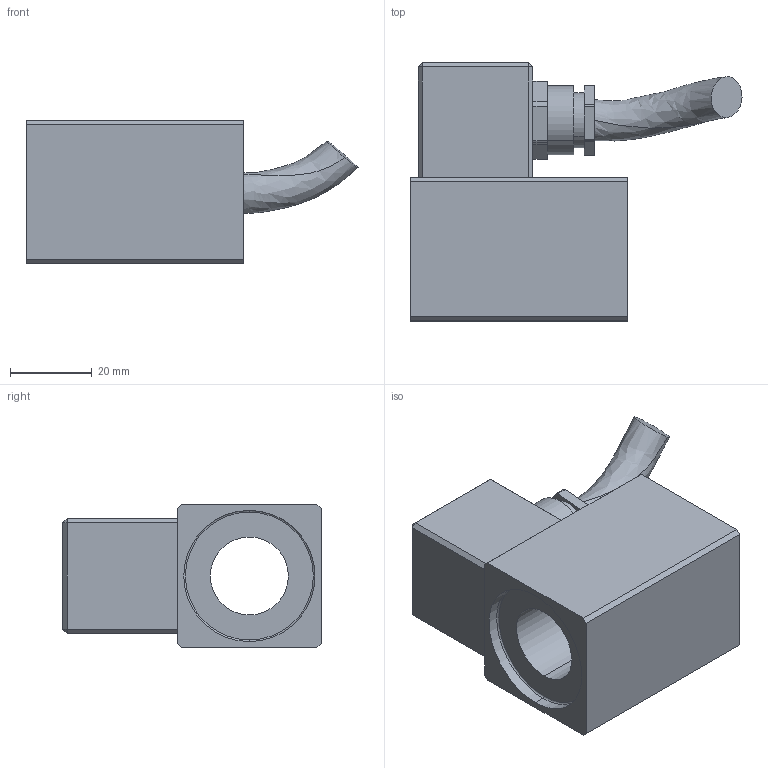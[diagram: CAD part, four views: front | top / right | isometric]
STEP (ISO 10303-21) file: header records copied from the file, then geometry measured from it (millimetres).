
FILE_DESCRIPTION (( 'STEP AP214' ), '1' );
FILE_NAME ('NKS35_19x50-M28-DC.STEP', '2015-07-28T14:01:37', ( '' ), ( '' ), 'SwSTEP 2.0', 'SolidWorks 2014', '' );
FILE_SCHEMA (( 'AUTOMOTIVE_DESIGN' ));
Length unit declared in the file: millimetre
Products named in the file (2): NKS35_19x50-M28-DC
Bounding box: 81.03 x 63 x 35 mm (x, y, z)
Volume: 75126 mm3; surface area: 19462.6 mm2
Topology: 1 solids, 9 shells, 206 faces, 482 edges, 302 vertices
Faces by surface type: plane 113, cylinder 63, torus 14, bspline 8, cone 8
Entity records: 8296 total; most frequent: CARTESIAN_POINT 1367, DIRECTION 1046, ORIENTED_EDGE 956, EDGE_CURVE 478, AXIS2_PLACEMENT_3D 397, VERTEX_POINT 302, LINE 252, VECTOR 252
